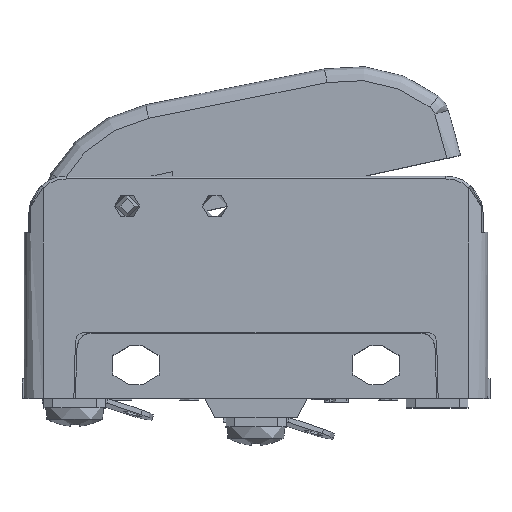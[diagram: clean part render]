
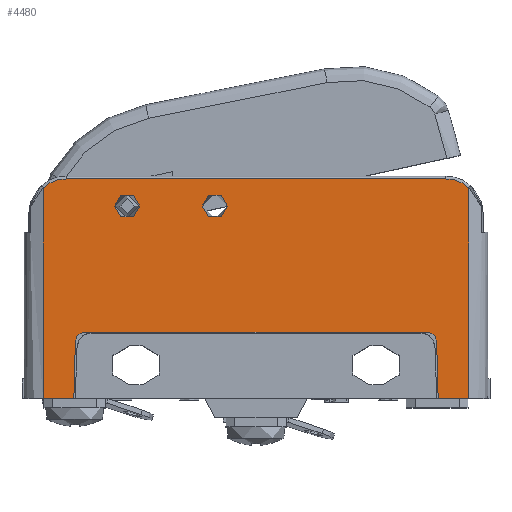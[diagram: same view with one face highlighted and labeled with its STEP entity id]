
A CAD part, top view. The second image highlights one B-rep face of the part: STEP entity #4480.
In plain terms, the highlighted planar face has unit normal (0, 0, 1).
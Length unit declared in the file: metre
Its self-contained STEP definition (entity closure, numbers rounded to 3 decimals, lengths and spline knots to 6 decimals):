
#4255=CARTESIAN_POINT('',(-0.029641,0.008273,0.058));
#4256=DIRECTION('',(0.,-1.,0.));
#4257=VECTOR('',#4256,1.);
#4258=LINE('',#4255,#4257);
#4259=CARTESIAN_POINT('',(-0.029641,0.013019,0.058));
#4260=VERTEX_POINT('',#4259);
#4261=CARTESIAN_POINT('',(-0.029641,-0.009527,0.058));
#4262=VERTEX_POINT('',#4261);
#4263=EDGE_CURVE('',#4260,#4262,#4258,.T.);
#4324=CARTESIAN_POINT('',(-0.020641,0.011073,0.058));
#4325=DIRECTION('',(0.,0.,1.));
#4326=DIRECTION('',(1.,0.,0.));
#4327=AXIS2_PLACEMENT_3D('',#4324,#4325,#4326);
#4328=CIRCLE('',#4327,0.00135);
#4329=CARTESIAN_POINT('',(-0.021991,0.011073,0.058));
#4330=VERTEX_POINT('',#4329);
#4331=EDGE_CURVE('',#4330,#4330,#4328,.T.);
#4360=CARTESIAN_POINT('',(-0.011241,0.011073,0.058));
#4361=DIRECTION('',(0.,0.,1.));
#4362=DIRECTION('',(1.,0.,0.));
#4363=AXIS2_PLACEMENT_3D('',#4360,#4361,#4362);
#4364=CIRCLE('',#4363,0.00135);
#4365=CARTESIAN_POINT('',(-0.012591,0.011073,0.058));
#4366=VERTEX_POINT('',#4365);
#4367=EDGE_CURVE('',#4366,#4366,#4364,.T.);
#4380=CARTESIAN_POINT('',(-0.029641,0.008273,0.058));
#4381=DIRECTION('',(0.,0.,-1.));
#4382=DIRECTION('',(-1.,0.,0.));
#4383=AXIS2_PLACEMENT_3D('',#4380,#4381,#4382);
#4384=PLANE('',#4383);
#4385=ORIENTED_EDGE('',*,*,#4367,.F.);
#4386=EDGE_LOOP('',(#4385));
#4387=FACE_BOUND('',#4386,.T.);
#4388=ORIENTED_EDGE('',*,*,#4331,.F.);
#4389=EDGE_LOOP('',(#4388));
#4390=FACE_BOUND('',#4389,.T.);
#4391=CARTESIAN_POINT('',(-0.029641,0.013973,0.058));
#4392=DIRECTION('',(1.,0.,0.));
#4393=VECTOR('',#4392,1.);
#4394=LINE('',#4391,#4393);
#4395=CARTESIAN_POINT('',(-0.027161,0.013973,0.058));
#4396=VERTEX_POINT('',#4395);
#4397=CARTESIAN_POINT('',(0.013478,0.013973,0.058));
#4398=VERTEX_POINT('',#4397);
#4399=EDGE_CURVE('',#4396,#4398,#4394,.T.);
#4400=ORIENTED_EDGE('',*,*,#4399,.F.);
#4401=CARTESIAN_POINT('',(-0.027161,0.010273,0.058));
#4402=DIRECTION('',(0.,0.,-1.));
#4403=DIRECTION('',(-1.,0.,0.));
#4404=AXIS2_PLACEMENT_3D('',#4401,#4402,#4403);
#4405=CIRCLE('',#4404,0.0037);
#4406=EDGE_CURVE('',#4260,#4396,#4405,.T.);
#4407=ORIENTED_EDGE('',*,*,#4406,.F.);
#4408=ORIENTED_EDGE('',*,*,#4263,.T.);
#4409=CARTESIAN_POINT('',(-0.029641,-0.009527,0.058));
#4410=DIRECTION('',(1.,0.,0.));
#4411=VECTOR('',#4410,1.);
#4412=LINE('',#4409,#4411);
#4413=CARTESIAN_POINT('',(-0.026341,-0.009527,0.058));
#4414=VERTEX_POINT('',#4413);
#4415=EDGE_CURVE('',#4262,#4414,#4412,.T.);
#4416=ORIENTED_EDGE('',*,*,#4415,.T.);
#4417=CARTESIAN_POINT('',(-0.026341,-0.009527,0.058));
#4418=DIRECTION('',(-0.026,-1.,0.));
#4419=VECTOR('',#4418,1.);
#4420=LINE('',#4417,#4419);
#4421=CARTESIAN_POINT('',(-0.026181,-0.003401,0.058));
#4422=VERTEX_POINT('',#4421);
#4423=EDGE_CURVE('',#4422,#4414,#4420,.T.);
#4424=ORIENTED_EDGE('',*,*,#4423,.F.);
#4425=CARTESIAN_POINT('',(-0.025181,-0.003427,0.058));
#4426=DIRECTION('',(0.,0.,1.));
#4427=DIRECTION('',(1.,0.,0.));
#4428=AXIS2_PLACEMENT_3D('',#4425,#4426,#4427);
#4429=CIRCLE('',#4428,0.001);
#4430=CARTESIAN_POINT('',(-0.025181,-0.002427,0.058));
#4431=VERTEX_POINT('',#4430);
#4432=EDGE_CURVE('',#4431,#4422,#4429,.T.);
#4433=ORIENTED_EDGE('',*,*,#4432,.F.);
#4434=CARTESIAN_POINT('',(-0.025181,-0.002427,0.058));
#4435=DIRECTION('',(-1.,0.,0.));
#4436=VECTOR('',#4435,1.);
#4437=LINE('',#4434,#4436);
#4438=CARTESIAN_POINT('',(0.011499,-0.002427,0.058));
#4439=VERTEX_POINT('',#4438);
#4440=EDGE_CURVE('',#4439,#4431,#4437,.T.);
#4441=ORIENTED_EDGE('',*,*,#4440,.F.);
#4442=CARTESIAN_POINT('',(0.011499,-0.003427,0.058));
#4443=DIRECTION('',(0.,0.,1.));
#4444=DIRECTION('',(1.,0.,0.));
#4445=AXIS2_PLACEMENT_3D('',#4442,#4443,#4444);
#4446=CIRCLE('',#4445,0.001);
#4447=CARTESIAN_POINT('',(0.012498,-0.003401,0.058));
#4448=VERTEX_POINT('',#4447);
#4449=EDGE_CURVE('',#4448,#4439,#4446,.T.);
#4450=ORIENTED_EDGE('',*,*,#4449,.F.);
#4451=CARTESIAN_POINT('',(0.012659,-0.009527,0.058));
#4452=DIRECTION('',(-0.026,1.,0.));
#4453=VECTOR('',#4452,1.);
#4454=LINE('',#4451,#4453);
#4455=CARTESIAN_POINT('',(0.012659,-0.009527,0.058));
#4456=VERTEX_POINT('',#4455);
#4457=EDGE_CURVE('',#4456,#4448,#4454,.T.);
#4458=ORIENTED_EDGE('',*,*,#4457,.F.);
#4459=CARTESIAN_POINT('',(0.015959,-0.009527,0.058));
#4460=VERTEX_POINT('',#4459);
#4461=EDGE_CURVE('',#4456,#4460,#4412,.T.);
#4462=ORIENTED_EDGE('',*,*,#4461,.T.);
#4463=CARTESIAN_POINT('',(0.015959,0.008273,0.058));
#4464=DIRECTION('',(0.,-1.,0.));
#4465=VECTOR('',#4464,1.);
#4466=LINE('',#4463,#4465);
#4467=CARTESIAN_POINT('',(0.015959,0.013019,0.058));
#4468=VERTEX_POINT('',#4467);
#4469=EDGE_CURVE('',#4468,#4460,#4466,.T.);
#4470=ORIENTED_EDGE('',*,*,#4469,.F.);
#4471=CARTESIAN_POINT('',(0.013478,0.010273,0.058));
#4472=DIRECTION('',(0.,0.,-1.));
#4473=DIRECTION('',(-1.,0.,0.));
#4474=AXIS2_PLACEMENT_3D('',#4471,#4472,#4473);
#4475=CIRCLE('',#4474,0.0037);
#4476=EDGE_CURVE('',#4398,#4468,#4475,.T.);
#4477=ORIENTED_EDGE('',*,*,#4476,.F.);
#4478=EDGE_LOOP('',(#4400,#4407,#4408,#4416,#4424,#4433,#4441,#4450,#4458,#4462,#4470,#4477));
#4479=FACE_BOUND('',#4478,.T.);
#4480=ADVANCED_FACE('',(#4387,#4390,#4479),#4384,.F.);
